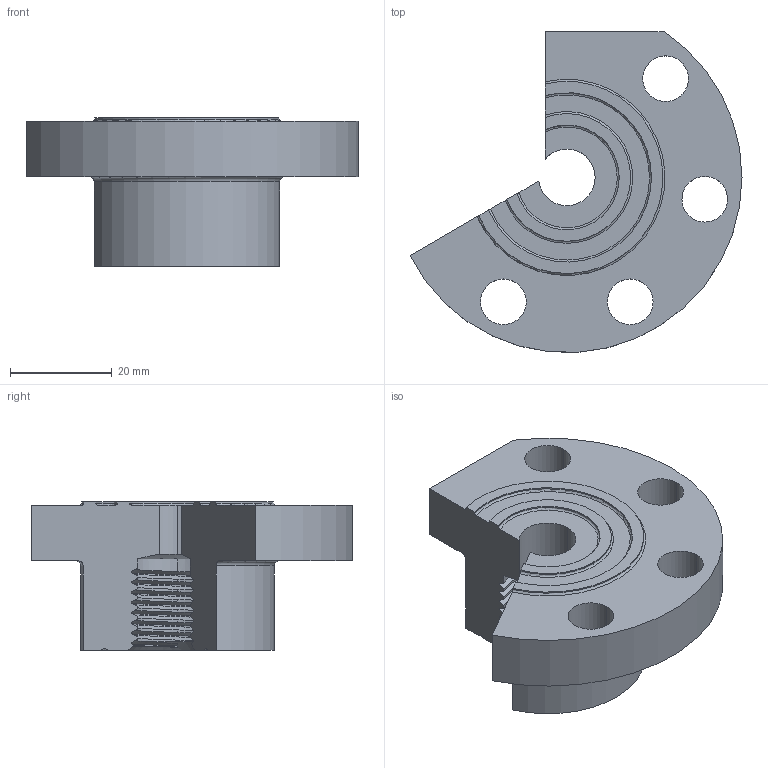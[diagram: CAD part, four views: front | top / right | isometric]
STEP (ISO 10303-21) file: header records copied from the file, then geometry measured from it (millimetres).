
FILE_DESCRIPTION (( 'STEP AP214' ), '1' );
FILE_NAME ('3D-28-05-483-CUT-L.STEP', '2025-03-24T09:27:06', ( '' ), ( '' ), 'SwSTEP 2.0', 'SolidWorks 2018', '' );
FILE_SCHEMA (( 'AUTOMOTIVE_DESIGN' ));
Length unit declared in the file: millimetre
Products named in the file (1): 3D-28-05-483-CUT-L
Bounding box: 65.38 x 63.13 x 29.25 mm (x, y, z)
Volume: 36125.2 mm3; surface area: 11475.5 mm2
Topology: 1 solids, 1 shells, 84 faces, 245 edges, 163 vertices
Faces by surface type: cylinder 38, bspline 24, plane 12, torus 8, cone 2
Entity records: 10650 total; most frequent: CARTESIAN_POINT 8663, ORIENTED_EDGE 490, DIRECTION 319, EDGE_CURVE 245, VERTEX_POINT 163, AXIS2_PLACEMENT_3D 122, EDGE_LOOP 92, ADVANCED_FACE 84
